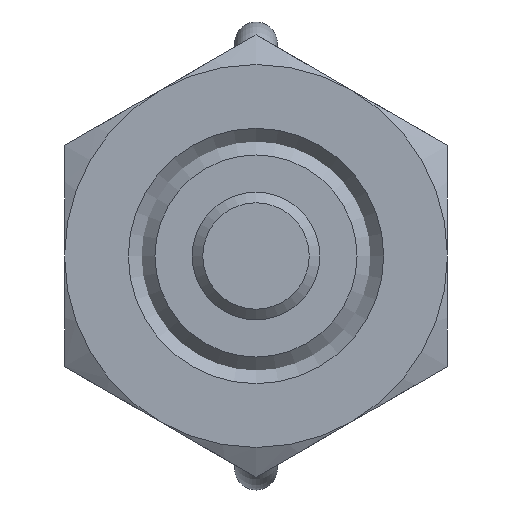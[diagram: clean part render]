
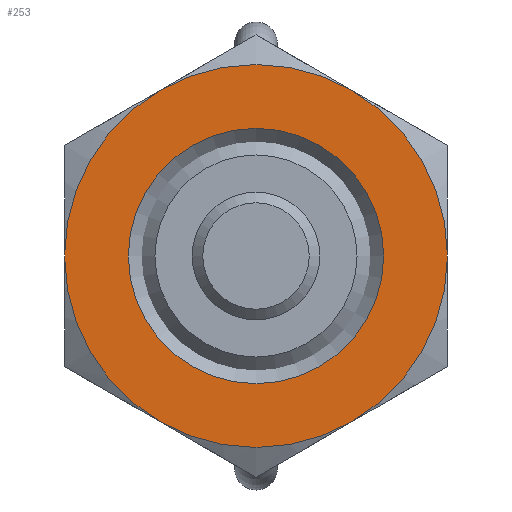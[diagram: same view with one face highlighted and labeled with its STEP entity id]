
A CAD part, front view. The second image highlights one B-rep face of the part: STEP entity #253.
In plain terms, the highlighted planar face has unit normal (0, -1, 0) as drawn and (1, 0, 0) by its records, which use the part's own axes.
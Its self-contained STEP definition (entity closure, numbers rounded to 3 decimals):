
#253 = ADVANCED_FACE( '', ( #397, #398 ), #399, .F. );
#397 = FACE_BOUND( '', #565, .T. );
#398 = FACE_OUTER_BOUND( '', #566, .T. );
#399 = PLANE( '', #567 );
#565 = EDGE_LOOP( '', ( #915 ) );
#566 = EDGE_LOOP( '', ( #916, #917, #918, #919, #920, #921 ) );
#567 = AXIS2_PLACEMENT_3D( '', #922, #923, #924 );
#915 = ORIENTED_EDGE( '', *, *, #1138, .F. );
#916 = ORIENTED_EDGE( '', *, *, #1139, .T. );
#917 = ORIENTED_EDGE( '', *, *, #1140, .T. );
#918 = ORIENTED_EDGE( '', *, *, #1141, .T. );
#919 = ORIENTED_EDGE( '', *, *, #1142, .T. );
#920 = ORIENTED_EDGE( '', *, *, #1143, .T. );
#921 = ORIENTED_EDGE( '', *, *, #1144, .T. );
#922 = CARTESIAN_POINT( '', ( 6., 9., 0. ) );
#923 = DIRECTION( '', ( -1., 0., 0. ) );
#924 = DIRECTION( '', ( 0., 0., 1. ) );
#1138 = EDGE_CURVE( '', #1328, #1328, #1329, .T. );
#1139 = EDGE_CURVE( '', #1330, #1331, #1332, .T. );
#1140 = EDGE_CURVE( '', #1331, #1310, #1333, .T. );
#1141 = EDGE_CURVE( '', #1310, #1301, #1334, .T. );
#1142 = EDGE_CURVE( '', #1301, #1322, #1335, .T. );
#1143 = EDGE_CURVE( '', #1322, #1336, #1337, .T. );
#1144 = EDGE_CURVE( '', #1336, #1330, #1338, .T. );
#1301 = VERTEX_POINT( '', #1662 );
#1310 = VERTEX_POINT( '', #1692 );
#1322 = VERTEX_POINT( '', #1730 );
#1328 = VERTEX_POINT( '', #1760 );
#1329 = CIRCLE( '', #1761, 6. );
#1330 = VERTEX_POINT( '', #1762 );
#1331 = VERTEX_POINT( '', #1763 );
#1332 = CIRCLE( '', #1764, 9. );
#1333 = CIRCLE( '', #1765, 9. );
#1334 = CIRCLE( '', #1766, 9. );
#1335 = CIRCLE( '', #1767, 9. );
#1336 = VERTEX_POINT( '', #1768 );
#1337 = CIRCLE( '', #1769, 9. );
#1338 = CIRCLE( '', #1770, 9. );
#1662 = CARTESIAN_POINT( '', ( 6., 0., 9. ) );
#1692 = CARTESIAN_POINT( '', ( 6., 7.794, 4.5 ) );
#1730 = CARTESIAN_POINT( '', ( 6., -7.794, 4.5 ) );
#1760 = CARTESIAN_POINT( '', ( 6., 0., -6. ) );
#1761 = AXIS2_PLACEMENT_3D( '', #2021, #2022, #2023 );
#1762 = CARTESIAN_POINT( '', ( 6., 0., -9. ) );
#1763 = CARTESIAN_POINT( '', ( 6., 7.794, -4.5 ) );
#1764 = AXIS2_PLACEMENT_3D( '', #2024, #2025, #2026 );
#1765 = AXIS2_PLACEMENT_3D( '', #2027, #2028, #2029 );
#1766 = AXIS2_PLACEMENT_3D( '', #2030, #2031, #2032 );
#1767 = AXIS2_PLACEMENT_3D( '', #2033, #2034, #2035 );
#1768 = CARTESIAN_POINT( '', ( 6., -7.794, -4.5 ) );
#1769 = AXIS2_PLACEMENT_3D( '', #2036, #2037, #2038 );
#1770 = AXIS2_PLACEMENT_3D( '', #2039, #2040, #2041 );
#2021 = CARTESIAN_POINT( '', ( 6., 0., 0. ) );
#2022 = DIRECTION( '', ( 1., 0., 0. ) );
#2023 = DIRECTION( '', ( 0., 0., -1. ) );
#2024 = CARTESIAN_POINT( '', ( 6., 0., 0. ) );
#2025 = DIRECTION( '', ( 1., 0., 0. ) );
#2026 = DIRECTION( '', ( 0., 0., -1. ) );
#2027 = CARTESIAN_POINT( '', ( 6., 0., 0. ) );
#2028 = DIRECTION( '', ( 1., 0., 0. ) );
#2029 = DIRECTION( '', ( 0., 0., -1. ) );
#2030 = CARTESIAN_POINT( '', ( 6., 0., 0. ) );
#2031 = DIRECTION( '', ( 1., 0., 0. ) );
#2032 = DIRECTION( '', ( 0., 0., -1. ) );
#2033 = CARTESIAN_POINT( '', ( 6., 0., 0. ) );
#2034 = DIRECTION( '', ( 1., 0., 0. ) );
#2035 = DIRECTION( '', ( 0., 0., -1. ) );
#2036 = CARTESIAN_POINT( '', ( 6., 0., 0. ) );
#2037 = DIRECTION( '', ( 1., 0., 0. ) );
#2038 = DIRECTION( '', ( 0., 0., -1. ) );
#2039 = CARTESIAN_POINT( '', ( 6., 0., 0. ) );
#2040 = DIRECTION( '', ( 1., 0., 0. ) );
#2041 = DIRECTION( '', ( 0., 0., -1. ) );
